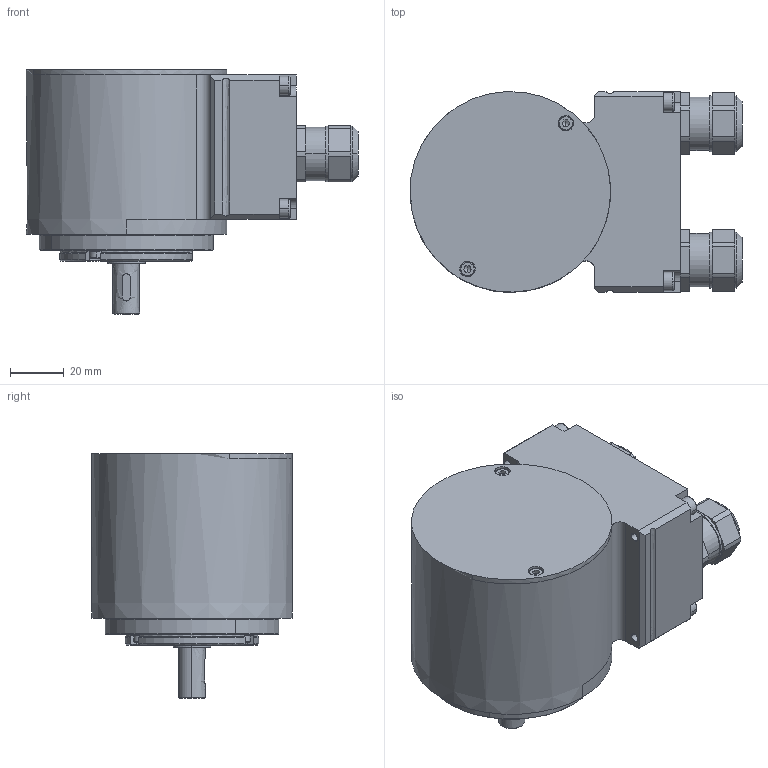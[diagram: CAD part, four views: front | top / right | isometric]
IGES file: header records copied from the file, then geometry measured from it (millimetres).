
Start section:  PTC IGES file: 2007893
Global section: file name: 2007893; native system: Pro/ENGINEER by Parametric Technology Corporation; preprocessor: 2009380; author: merz; organization: Unknown; date: 20101004.101403; units: millimetre
Bounding box: 124.1 x 75 x 91.5 mm (x, y, z)
Surface area: 87867.7 mm2 (no closed solid volume)
Topology: 0 solids, 0 shells, 764 faces, 3874 edges, 3840 vertices
Faces by surface type: revolution 496, bspline 268
